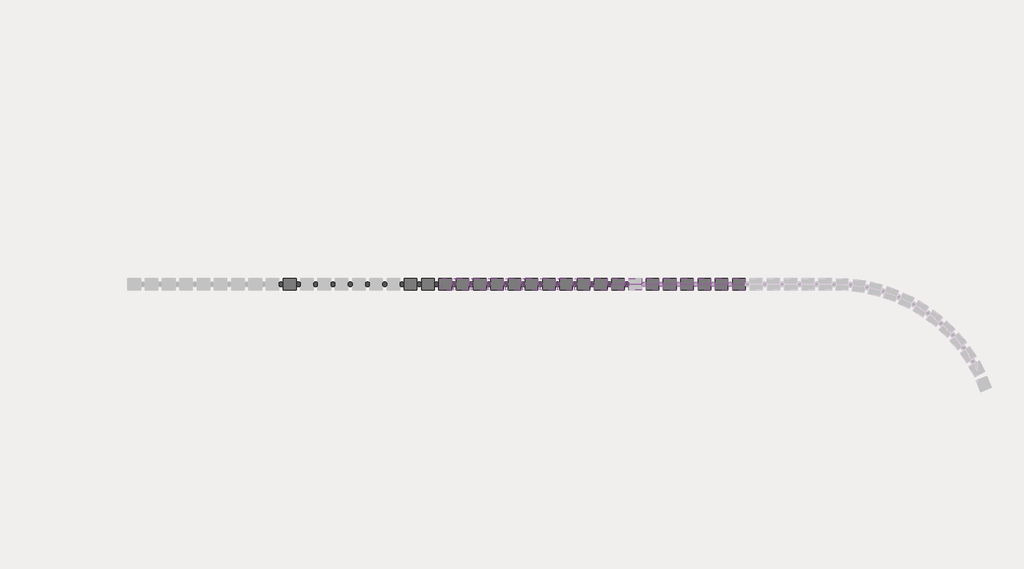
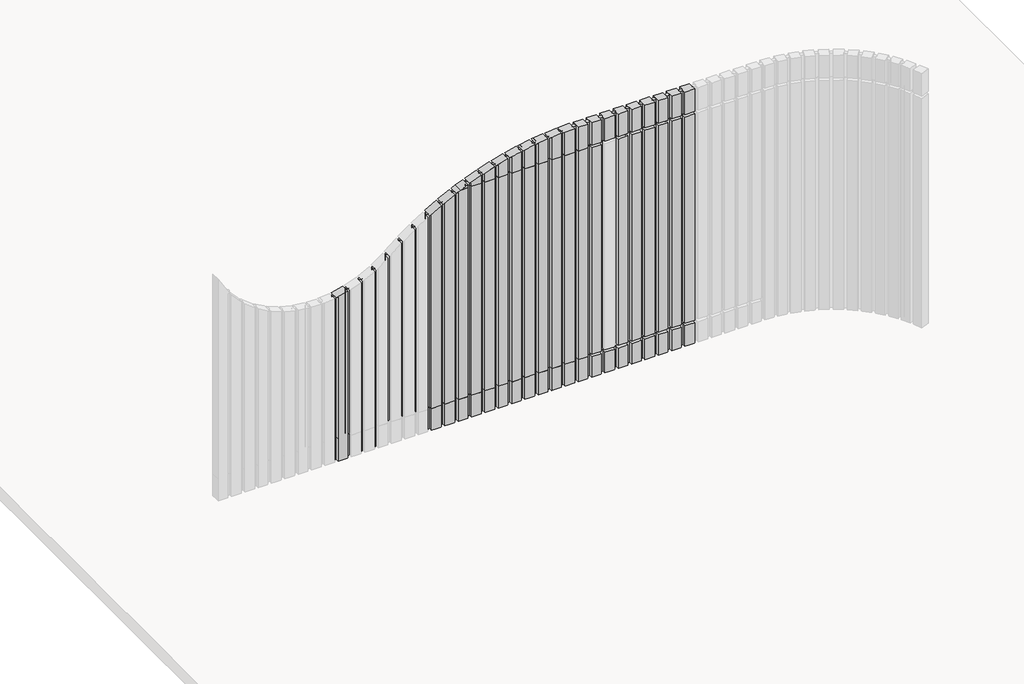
# One storey, part 10 of 15: 71 members, 58 plates.
"""IFC4 building model written with IfcOpenShell, lengths in millimetres."""

from ifc_helpers import new_model, si_unit, origin, place, context, project, spatial, transform, mapped, element, save
from components import circular_mullion_9bc5a1a1, circular_mullion_f2f76ee6, circular_mullion_506f78ad, circular_mullion_5e6bc60d, circular_mullion_93f1a2a4, circular_mullion_19b831f5, circular_mullion_9126d0c8, circular_mullion_5a352fbb, circular_mullion_0b7657d8, circular_mullion_8881820c, circular_mullion_437031f2, circular_mullion_af346b7b, circular_mullion_17b90b03, circular_mullion_a9f31288, circular_mullion_f07e19ea, circular_mullion_ab420463, circular_mullion_72bdbbff, circular_mullion_6de284a6, circular_mullion_6065364c, circular_mullion_4cdccc34, circular_mullion_45f145e4, circular_mullion_dfc24bf5, rectangular_mullion_8aaab3e9, empty_system_panel_vazio_14d0cb9b, empty_system_panel_vazio_54c19a60, empty_system_panel_vazio_91d6d3db, empty_system_panel_vazio_0cc84862, empty_system_panel_vazio_8ffa4d17, empty_system_panel_vazio_7f4cb676, empty_system_panel_vazio_4967844e, empty_system_panel_vazio_71582079, empty_system_panel_vazio_b9b9ac80, empty_system_panel_vazio_8d1e7e2e, empty_system_panel_vazio_7f57b70a, empty_system_panel_vazio_f328f28e, empty_system_panel_vazio_56ca9cd7, empty_system_panel_vazio_61c9f610, empty_system_panel_vazio_f27795c1, empty_system_panel_vazio_95a1346f, empty_system_panel_vazio_5e425309, empty_system_panel_vazio_a8f05f23, empty_system_panel_vazio_9a40c585

model = new_model("IFC4")

# Units and contexts
model_context = context("Model", 3, world=origin())
ifc_project = project(units=[si_unit("LENGTHUNIT", "METRE", prefix="MILLI")], contexts=[model_context])

# Site, building, storey
site = spatial("IfcSite", under=ifc_project)
building = spatial("IfcBuilding", under=site)
storey = spatial("IfcBuildingStorey", under=building, Name="TÉRREO", Elevation=0.0)

# Members
placement = place(None, origin())
circular_mullion_shape = circular_mullion_9bc5a1a1(model_context)
element("IfcMember", 1, ObjectType="Circular Mullion : GRADIL 40mm", at=placement, inside=storey, context=model_context, shape_type="MappedRepresentation", body=[
    mapped(circular_mullion_shape, transform((44886.2381834, 8426.4806607, 0.0), x_axis=(-1.0, 0.0, 0.0), y_axis=(0.0, 1.0, 0.0), z_axis=(0.0, 0.0, -1.0))),
])
element("IfcMember", 2, ObjectType="Circular Mullion : GRADIL 40mm", at=placement, inside=storey, context=model_context, shape_type="MappedRepresentation", body=[
    mapped(circular_mullion_shape, transform((44737.4576956, 8426.4806607, 0.0), x_axis=(-1.0, 0.0, 0.0), y_axis=(0.0, 1.0, 0.0), z_axis=(0.0, 0.0, -1.0))),
])
element("IfcMember", 3, ObjectType="Circular Mullion : GRADIL 40mm", at=placement, inside=storey, context=model_context, shape_type="MappedRepresentation", body=[
    mapped(circular_mullion_shape, transform((44588.6772078, 8426.4806607, 0.0), x_axis=(-1.0, 0.0, 0.0), y_axis=(0.0, 1.0, 0.0), z_axis=(0.0, 0.0, -1.0))),
])
element("IfcMember", 4, ObjectType="Circular Mullion : GRADIL 40mm", at=placement, inside=storey, context=model_context, shape_type="MappedRepresentation", body=[
    mapped(circular_mullion_shape, transform((44439.89672, 8426.4806607, 0.0), x_axis=(-1.0, 0.0, 0.0), y_axis=(0.0, 1.0, 0.0), z_axis=(0.0, 0.0, -1.0))),
])
element("IfcMember", 5, ObjectType="Circular Mullion : GRADIL 40mm", at=placement, inside=storey, context=model_context, shape_type="MappedRepresentation", body=[
    mapped(circular_mullion_shape, transform((44291.1162322, 8426.4806607, 0.0), x_axis=(-1.0, 0.0, 0.0), y_axis=(0.0, 1.0, 0.0), z_axis=(0.0, 0.0, -1.0))),
])
element("IfcMember", 6, ObjectType="Circular Mullion : GRADIL 40mm", at=placement, inside=storey, context=model_context, shape_type="MappedRepresentation", body=[
    mapped(circular_mullion_shape, transform((44142.3357444, 8426.4806607, 0.0), x_axis=(-1.0, 0.0, 0.0), y_axis=(0.0, 1.0, 0.0), z_axis=(0.0, 0.0, -1.0))),
])
element("IfcMember", 7, ObjectType="Circular Mullion : GRADIL 40mm", at=placement, inside=storey, context=model_context, shape_type="MappedRepresentation", body=[
    mapped(circular_mullion_shape, transform((43993.5552566, 8426.4806607, 0.0), x_axis=(-1.0, 0.0, 0.0), y_axis=(0.0, 1.0, 0.0), z_axis=(0.0, 0.0, -1.0))),
])
element("IfcMember", 8, ObjectType="Circular Mullion : GRADIL 40mm", at=placement, inside=storey, context=model_context, shape_type="MappedRepresentation", body=[
    mapped(circular_mullion_shape, transform((43844.7747688, 8426.4806607, 0.0), x_axis=(-1.0, 0.0, 0.0), y_axis=(0.0, 1.0, 0.0), z_axis=(0.0, 0.0, -1.0))),
])
element("IfcMember", 9, ObjectType="Circular Mullion : GRADIL 40mm", at=placement, inside=storey, context=model_context, shape_type="MappedRepresentation", body=[
    mapped(circular_mullion_shape, transform((43695.994281, 8426.4806607, 0.0), x_axis=(-1.0, 0.0, 0.0), y_axis=(0.0, 1.0, 0.0), z_axis=(0.0, 0.0, -1.0))),
])
element("IfcMember", 10, ObjectType="Circular Mullion : GRADIL 40mm", at=placement, inside=storey, context=model_context, shape_type="MappedRepresentation", body=[
    mapped(circular_mullion_shape, transform((43547.2137932, 8426.4806607, 0.0), x_axis=(-1.0, 0.0, 0.0), y_axis=(0.0, 1.0, 0.0), z_axis=(0.0, 0.0, -1.0))),
])
element("IfcMember", 11, ObjectType="Circular Mullion : GRADIL 40mm", at=placement, inside=storey, context=model_context, shape_type="MappedRepresentation", body=[
    mapped(circular_mullion_shape, transform((43398.4333054, 8426.4806607, 0.0), x_axis=(-1.0, 0.0, 0.0), y_axis=(0.0, 1.0, 0.0), z_axis=(0.0, 0.0, -1.0))),
])
element("IfcMember", 12, ObjectType="Circular Mullion : GRADIL 40mm", at=placement, inside=storey, context=model_context, shape_type="MappedRepresentation", body=[
    mapped(circular_mullion_shape, transform((43249.6528176, 8426.4806607, 0.0), x_axis=(-1.0, 0.0, 0.0), y_axis=(0.0, 1.0, 0.0), z_axis=(0.0, 0.0, -1.0))),
])
element("IfcMember", 13, ObjectType="Circular Mullion : GRADIL 40mm", at=placement, inside=storey, context=model_context, shape_type="MappedRepresentation", body=[
    mapped(circular_mullion_shape, transform((43100.8723298, 8426.4806607, 0.0), x_axis=(-1.0, 0.0, 0.0), y_axis=(0.0, 1.0, 0.0), z_axis=(0.0, 0.0, -1.0))),
])
element("IfcMember", 14, ObjectType="Circular Mullion : GRADIL 40mm", at=placement, inside=storey, context=model_context, shape_type="MappedRepresentation", body=[
    mapped(circular_mullion_shape, transform((42952.0918419, 8426.4806607, 0.0), x_axis=(-1.0, 0.0, 0.0), y_axis=(0.0, 1.0, 0.0), z_axis=(0.0, 0.0, -1.0))),
])
element("IfcMember", 15, ObjectType="Circular Mullion : GRADIL 40mm", at=placement, inside=storey, context=model_context, shape_type="MappedRepresentation", body=[
    mapped(circular_mullion_shape, transform((42803.3113541, 8426.4806607, 0.0), x_axis=(-1.0, 0.0, 0.0), y_axis=(0.0, 1.0, 0.0), z_axis=(0.0, 0.0, -1.0))),
])
element("IfcMember", 16, ObjectType="Circular Mullion : GRADIL 40mm", at=placement, inside=storey, context=model_context, shape_type="MappedRepresentation", body=[
    mapped(circular_mullion_shape, transform((42654.5308663, 8426.4806607, 0.0), x_axis=(-1.0, 0.0, 0.0), y_axis=(0.0, 1.0, 0.0), z_axis=(0.0, 0.0, -1.0))),
])
element("IfcMember", 17, ObjectType="Circular Mullion : GRADIL 40mm", at=placement, inside=storey, context=model_context, shape_type="MappedRepresentation", body=[
    mapped(circular_mullion_shape, transform((42356.9698907, 8426.4806607, 0.0), x_axis=(-1.0, 0.0, 0.0), y_axis=(0.0, 1.0, 0.0), z_axis=(0.0, 0.0, -1.0))),
])
element("IfcMember", 18, ObjectType="Circular Mullion : GRADIL 40mm", at=placement, inside=storey, context=model_context, shape_type="MappedRepresentation", body=[
    mapped(circular_mullion_shape, transform((42208.1894029, 8426.4806607, 0.0), x_axis=(-1.0, 0.0, 0.0), y_axis=(0.0, 1.0, 0.0), z_axis=(0.0, 0.0, -1.0))),
])
element("IfcMember", 19, ObjectType="Circular Mullion : GRADIL 40mm", at=placement, inside=storey, context=model_context, shape_type="MappedRepresentation", body=[
    mapped(circular_mullion_shape, transform((41464.2869639, 8426.4806607, 0.0), x_axis=(-1.0, 0.0, 0.0), y_axis=(0.0, 1.0, 0.0), z_axis=(0.0, 0.0, -1.0))),
])
element("IfcMember", 20, ObjectType="Circular Mullion : GRADIL 40mm", at=placement, inside=storey, context=model_context, shape_type="MappedRepresentation", body=[
    mapped(circular_mullion_shape, transform((41315.5064761, 8426.4806607, 0.0), x_axis=(-1.0, 0.0, 0.0), y_axis=(0.0, 1.0, 0.0), z_axis=(0.0, 0.0, -1.0))),
])
element("IfcMember", 21, ObjectType="Circular Mullion : GRADIL 40mm", at=placement, inside=storey, context=model_context, shape_type="MappedRepresentation", body=[
    mapped(circular_mullion_shape, transform((42059.4089151, 8426.4806607, 0.0), x_axis=(-1.0, 0.0, 0.0), y_axis=(0.0, 1.0, 0.0), z_axis=(0.0, 0.0, -1.0))),
])
element("IfcMember", 22, ObjectType="Circular Mullion : GRADIL 40mm", at=placement, inside=storey, context=model_context, shape_type="MappedRepresentation", body=[
    mapped(circular_mullion_shape, transform((42505.7503785, 8426.4806607, 0.0), x_axis=(-1.0, 0.0, 0.0), y_axis=(0.0, 1.0, 0.0), z_axis=(0.0, 0.0, -1.0))),
])
element("IfcMember", 23, ObjectType="Circular Mullion : GRADIL 40mm", at=placement, inside=storey, context=model_context, shape_type="MappedRepresentation", body=[
    mapped(circular_mullion_shape, transform((41166.7259883, 8426.4806607, 0.0), x_axis=(-1.0, 0.0, 0.0), y_axis=(0.0, 1.0, 0.0), z_axis=(0.0, 0.0, -1.0))),
])
element("IfcMember", 24, ObjectType="Circular Mullion : GRADIL 40mm", at=placement, inside=storey, context=model_context, shape_type="MappedRepresentation", body=[
    mapped(circular_mullion_shape, transform((41017.9455005, 8426.4806607, 0.0), x_axis=(-1.0, 0.0, 0.0), y_axis=(0.0, 1.0, 0.0), z_axis=(0.0, 0.0, -1.0))),
])
circular_mullion_2_shape = circular_mullion_f2f76ee6(model_context)
element("IfcMember", 25, ObjectType="Circular Mullion : GRADIL 40mm", at=placement, inside=storey, context=model_context, shape_type="MappedRepresentation", body=[
    mapped(circular_mullion_2_shape, transform((44886.2381834, 8426.4806607, 2720.0), x_axis=(-1.0, 0.0, 0.0), y_axis=(0.0, 1.0, 0.0), z_axis=(0.0, 0.0, -1.0))),
])
element("IfcMember", 26, ObjectType="Circular Mullion : GRADIL 40mm", at=placement, inside=storey, context=model_context, shape_type="MappedRepresentation", body=[
    mapped(circular_mullion_2_shape, transform((44737.4576956, 8426.4806607, 2720.0), x_axis=(-1.0, 0.0, 0.0), y_axis=(0.0, 1.0, 0.0), z_axis=(0.0, 0.0, -1.0))),
])
element("IfcMember", 27, ObjectType="Circular Mullion : GRADIL 40mm", at=placement, inside=storey, context=model_context, shape_type="MappedRepresentation", body=[
    mapped(circular_mullion_2_shape, transform((44588.6772078, 8426.4806607, 2720.0), x_axis=(-1.0, 0.0, 0.0), y_axis=(0.0, 1.0, 0.0), z_axis=(0.0, 0.0, -1.0))),
])
element("IfcMember", 28, ObjectType="Circular Mullion : GRADIL 40mm", at=placement, inside=storey, context=model_context, shape_type="MappedRepresentation", body=[
    mapped(circular_mullion_2_shape, transform((44439.89672, 8426.4806607, 2720.0), x_axis=(-1.0, 0.0, 0.0), y_axis=(0.0, 1.0, 0.0), z_axis=(0.0, 0.0, -1.0))),
])
element("IfcMember", 29, ObjectType="Circular Mullion : GRADIL 40mm", at=placement, inside=storey, context=model_context, shape_type="MappedRepresentation", body=[
    mapped(circular_mullion_2_shape, transform((44291.1162322, 8426.4806607, 2720.0), x_axis=(-1.0, 0.0, 0.0), y_axis=(0.0, 1.0, 0.0), z_axis=(0.0, 0.0, -1.0))),
])
element("IfcMember", 30, ObjectType="Circular Mullion : GRADIL 40mm", at=placement, inside=storey, context=model_context, shape_type="MappedRepresentation", body=[
    mapped(circular_mullion_2_shape, transform((44142.3357444, 8426.4806607, 2720.0), x_axis=(-1.0, 0.0, 0.0), y_axis=(0.0, 1.0, 0.0), z_axis=(0.0, 0.0, -1.0))),
])
element("IfcMember", 31, ObjectType="Circular Mullion : GRADIL 40mm", at=placement, inside=storey, context=model_context, shape_type="MappedRepresentation", body=[
    mapped(circular_mullion_2_shape, transform((43993.5552566, 8426.4806607, 2720.0), x_axis=(-1.0, 0.0, 0.0), y_axis=(0.0, 1.0, 0.0), z_axis=(0.0, 0.0, -1.0))),
])
element("IfcMember", 32, ObjectType="Circular Mullion : GRADIL 40mm", at=placement, inside=storey, context=model_context, shape_type="MappedRepresentation", body=[
    mapped(circular_mullion_2_shape, transform((43844.7747688, 8426.4806607, 2720.0), x_axis=(-1.0, 0.0, 0.0), y_axis=(0.0, 1.0, 0.0), z_axis=(0.0, 0.0, -1.0))),
])
circular_mullion_3_shape = circular_mullion_506f78ad(model_context)
element("IfcMember", 33, ObjectType="Circular Mullion : GRADIL 40mm", at=placement, inside=storey, context=model_context, shape_type="MappedRepresentation", body=[
    mapped(circular_mullion_3_shape, transform((43695.994281, 8426.4806607, 2720.0), x_axis=(-1.0, 0.0, 0.0), y_axis=(0.0, 1.0, 0.0), z_axis=(0.0, 0.0, -1.0))),
])
circular_mullion_4_shape = circular_mullion_5e6bc60d(model_context)
element("IfcMember", 34, ObjectType="Circular Mullion : GRADIL 40mm", at=placement, inside=storey, context=model_context, shape_type="MappedRepresentation", body=[
    mapped(circular_mullion_4_shape, transform((43547.2137932, 8426.4806607, 2720.0), x_axis=(-1.0, 0.0, 0.0), y_axis=(0.0, 1.0, 0.0), z_axis=(0.0, 0.0, -1.0))),
])
circular_mullion_5_shape = circular_mullion_93f1a2a4(model_context)
element("IfcMember", 35, ObjectType="Circular Mullion : GRADIL 40mm", at=placement, inside=storey, context=model_context, shape_type="MappedRepresentation", body=[
    mapped(circular_mullion_5_shape, transform((43398.4333054, 8426.4806607, 2720.0), x_axis=(-1.0, 0.0, 0.0), y_axis=(0.0, 1.0, 0.0), z_axis=(0.0, 0.0, -1.0))),
])
circular_mullion_6_shape = circular_mullion_19b831f5(model_context)
element("IfcMember", 36, ObjectType="Circular Mullion : GRADIL 40mm", at=placement, inside=storey, context=model_context, shape_type="MappedRepresentation", body=[
    mapped(circular_mullion_6_shape, transform((43249.6528176, 8426.4806607, 2720.0), x_axis=(-1.0, 0.0, 0.0), y_axis=(0.0, 1.0, 0.0), z_axis=(0.0, 0.0, -1.0))),
])
circular_mullion_7_shape = circular_mullion_9126d0c8(model_context)
element("IfcMember", 37, ObjectType="Circular Mullion : GRADIL 40mm", at=placement, inside=storey, context=model_context, shape_type="MappedRepresentation", body=[
    mapped(circular_mullion_7_shape, transform((43100.8723298, 8426.4806607, 2720.0), x_axis=(-1.0, 0.0, 0.0), y_axis=(0.0, 1.0, 0.0), z_axis=(0.0, 0.0, -1.0))),
])
circular_mullion_8_shape = circular_mullion_5a352fbb(model_context)
element("IfcMember", 38, ObjectType="Circular Mullion : GRADIL 40mm", at=placement, inside=storey, context=model_context, shape_type="MappedRepresentation", body=[
    mapped(circular_mullion_8_shape, transform((42952.0918419, 8426.4806607, 2720.0), x_axis=(-1.0, 0.0, 0.0), y_axis=(0.0, 1.0, 0.0), z_axis=(0.0, 0.0, -1.0))),
])
circular_mullion_9_shape = circular_mullion_0b7657d8(model_context)
element("IfcMember", 39, ObjectType="Circular Mullion : GRADIL 40mm", at=placement, inside=storey, context=model_context, shape_type="MappedRepresentation", body=[
    mapped(circular_mullion_9_shape, transform((42803.3113541, 8426.4806607, 2720.0), x_axis=(-1.0, 0.0, 0.0), y_axis=(0.0, 1.0, 0.0), z_axis=(0.0, 0.0, -1.0))),
])
circular_mullion_10_shape = circular_mullion_8881820c(model_context)
element("IfcMember", 40, ObjectType="Circular Mullion : GRADIL 40mm", at=placement, inside=storey, context=model_context, shape_type="MappedRepresentation", body=[
    mapped(circular_mullion_10_shape, transform((42654.5308663, 8426.4806607, 2720.0), x_axis=(-1.0, 0.0, 0.0), y_axis=(0.0, 1.0, 0.0), z_axis=(0.0, 0.0, -1.0))),
])
circular_mullion_11_shape = circular_mullion_437031f2(model_context)
element("IfcMember", 41, ObjectType="Circular Mullion : GRADIL 40mm", at=placement, inside=storey, context=model_context, shape_type="MappedRepresentation", body=[
    mapped(circular_mullion_11_shape, transform((42505.7503785, 8426.4806607, 2720.0), x_axis=(-1.0, 0.0, 0.0), y_axis=(0.0, 1.0, 0.0), z_axis=(0.0, 0.0, -1.0))),
])
circular_mullion_12_shape = circular_mullion_af346b7b(model_context)
element("IfcMember", 42, ObjectType="Circular Mullion : GRADIL 40mm", at=placement, inside=storey, context=model_context, shape_type="MappedRepresentation", body=[
    mapped(circular_mullion_12_shape, transform((43993.5552566, 8426.4806607, 256.7936467), x_axis=(-1.0, 0.0, 0.0), y_axis=(0.0, 1.0, 0.0), z_axis=(0.0, 0.0, -1.0))),
])
element("IfcMember", 43, ObjectType="Circular Mullion : GRADIL 40mm", at=placement, inside=storey, context=model_context, shape_type="MappedRepresentation", body=[
    mapped(circular_mullion_12_shape, transform((43844.7747688, 8426.4806607, 256.7936467), x_axis=(-1.0, 0.0, 0.0), y_axis=(0.0, 1.0, 0.0), z_axis=(0.0, 0.0, -1.0))),
])
element("IfcMember", 44, ObjectType="Circular Mullion : GRADIL 40mm", at=placement, inside=storey, context=model_context, shape_type="MappedRepresentation", body=[
    mapped(circular_mullion_12_shape, transform((43695.994281, 8426.4806607, 256.7936467), x_axis=(-1.0, 0.0, 0.0), y_axis=(0.0, 1.0, 0.0), z_axis=(0.0, 0.0, -1.0))),
])
element("IfcMember", 45, ObjectType="Circular Mullion : GRADIL 40mm", at=placement, inside=storey, context=model_context, shape_type="MappedRepresentation", body=[
    mapped(circular_mullion_12_shape, transform((43547.2137932, 8426.4806607, 256.7936467), x_axis=(-1.0, 0.0, 0.0), y_axis=(0.0, 1.0, 0.0), z_axis=(0.0, 0.0, -1.0))),
])
element("IfcMember", 46, ObjectType="Circular Mullion : GRADIL 40mm", at=placement, inside=storey, context=model_context, shape_type="MappedRepresentation", body=[
    mapped(circular_mullion_12_shape, transform((43398.4333054, 8426.4806607, 256.7936467), x_axis=(-1.0, 0.0, 0.0), y_axis=(0.0, 1.0, 0.0), z_axis=(0.0, 0.0, -1.0))),
])
element("IfcMember", 47, ObjectType="Circular Mullion : GRADIL 40mm", at=placement, inside=storey, context=model_context, shape_type="MappedRepresentation", body=[
    mapped(circular_mullion_12_shape, transform((43249.6528176, 8426.4806607, 256.7936467), x_axis=(-1.0, 0.0, 0.0), y_axis=(0.0, 1.0, 0.0), z_axis=(0.0, 0.0, -1.0))),
])
element("IfcMember", 48, ObjectType="Circular Mullion : GRADIL 40mm", at=placement, inside=storey, context=model_context, shape_type="MappedRepresentation", body=[
    mapped(circular_mullion_12_shape, transform((43100.8723298, 8426.4806607, 256.7936467), x_axis=(-1.0, 0.0, 0.0), y_axis=(0.0, 1.0, 0.0), z_axis=(0.0, 0.0, -1.0))),
])
element("IfcMember", 49, ObjectType="Circular Mullion : GRADIL 40mm", at=placement, inside=storey, context=model_context, shape_type="MappedRepresentation", body=[
    mapped(circular_mullion_12_shape, transform((42952.0918419, 8426.4806607, 256.7936467), x_axis=(-1.0, 0.0, 0.0), y_axis=(0.0, 1.0, 0.0), z_axis=(0.0, 0.0, -1.0))),
])
element("IfcMember", 50, ObjectType="Circular Mullion : GRADIL 40mm", at=placement, inside=storey, context=model_context, shape_type="MappedRepresentation", body=[
    mapped(circular_mullion_12_shape, transform((42803.3113541, 8426.4806607, 256.7936467), x_axis=(-1.0, 0.0, 0.0), y_axis=(0.0, 1.0, 0.0), z_axis=(0.0, 0.0, -1.0))),
])
element("IfcMember", 51, ObjectType="Circular Mullion : GRADIL 40mm", at=placement, inside=storey, context=model_context, shape_type="MappedRepresentation", body=[
    mapped(circular_mullion_12_shape, transform((42654.5308663, 8426.4806607, 256.7936467), x_axis=(-1.0, 0.0, 0.0), y_axis=(0.0, 1.0, 0.0), z_axis=(0.0, 0.0, -1.0))),
])
element("IfcMember", 52, ObjectType="Circular Mullion : GRADIL 40mm", at=placement, inside=storey, context=model_context, shape_type="MappedRepresentation", body=[
    mapped(circular_mullion_12_shape, transform((42505.7503785, 8426.4806607, 256.7936467), x_axis=(-1.0, 0.0, 0.0), y_axis=(0.0, 1.0, 0.0), z_axis=(0.0, 0.0, -1.0))),
])
circular_mullion_13_shape = circular_mullion_17b90b03(model_context)
element("IfcMember", 53, ObjectType="Circular Mullion : GRADIL 40mm", at=placement, inside=storey, context=model_context, shape_type="MappedRepresentation", body=[
    mapped(circular_mullion_13_shape, transform((42356.9698907, 8426.4806607, 256.7936467), x_axis=(-1.0, 0.0, 0.0), y_axis=(0.0, 1.0, 0.0), z_axis=(0.0, 0.0, -1.0))),
])
circular_mullion_14_shape = circular_mullion_a9f31288(model_context)
element("IfcMember", 54, ObjectType="Circular Mullion : GRADIL 40mm", at=placement, inside=storey, context=model_context, shape_type="MappedRepresentation", body=[
    mapped(circular_mullion_14_shape, transform((42208.1894029, 8426.4806607, 256.7936467), x_axis=(-1.0, 0.0, 0.0), y_axis=(0.0, 1.0, 0.0), z_axis=(0.0, 0.0, -1.0))),
])
circular_mullion_15_shape = circular_mullion_f07e19ea(model_context)
element("IfcMember", 55, ObjectType="Circular Mullion : GRADIL 40mm", at=placement, inside=storey, context=model_context, shape_type="MappedRepresentation", body=[
    mapped(circular_mullion_15_shape, transform((42059.4089151, 8426.4806607, 256.7936467), x_axis=(-1.0, 0.0, 0.0), y_axis=(0.0, 1.0, 0.0), z_axis=(0.0, 0.0, -1.0))),
])
circular_mullion_16_shape = circular_mullion_ab420463(model_context)
element("IfcMember", 56, ObjectType="Circular Mullion : GRADIL 40mm", at=placement, inside=storey, context=model_context, shape_type="MappedRepresentation", body=[
    mapped(circular_mullion_16_shape, transform((41910.6284273, 8426.4806607, 256.7936467), x_axis=(-1.0, 0.0, 0.0), y_axis=(0.0, 1.0, 0.0), z_axis=(0.0, 0.0, -1.0))),
])
circular_mullion_17_shape = circular_mullion_72bdbbff(model_context)
element("IfcMember", 57, ObjectType="Circular Mullion : GRADIL 40mm", at=placement, inside=storey, context=model_context, shape_type="MappedRepresentation", body=[
    mapped(circular_mullion_17_shape, transform((41761.8479395, 8426.4806607, 256.7936467), x_axis=(-1.0, 0.0, 0.0), y_axis=(0.0, 1.0, 0.0), z_axis=(0.0, 0.0, -1.0))),
])
circular_mullion_18_shape = circular_mullion_6de284a6(model_context)
element("IfcMember", 58, ObjectType="Circular Mullion : GRADIL 40mm", at=placement, inside=storey, context=model_context, shape_type="MappedRepresentation", body=[
    mapped(circular_mullion_18_shape, transform((41613.0674517, 8426.4806607, 256.7936467), x_axis=(-1.0, 0.0, 0.0), y_axis=(0.0, 1.0, 0.0), z_axis=(0.0, 0.0, -1.0))),
])
circular_mullion_19_shape = circular_mullion_6065364c(model_context)
element("IfcMember", 59, ObjectType="Circular Mullion : GRADIL 40mm", at=placement, inside=storey, context=model_context, shape_type="MappedRepresentation", body=[
    mapped(circular_mullion_19_shape, transform((41464.2869639, 8426.4806607, 256.7936467), x_axis=(-1.0, 0.0, 0.0), y_axis=(0.0, 1.0, 0.0), z_axis=(0.0, 0.0, -1.0))),
])
circular_mullion_20_shape = circular_mullion_4cdccc34(model_context)
element("IfcMember", 60, ObjectType="Circular Mullion : GRADIL 40mm", at=placement, inside=storey, context=model_context, shape_type="MappedRepresentation", body=[
    mapped(circular_mullion_20_shape, transform((41315.5064761, 8426.4806607, 256.7936467), x_axis=(-1.0, 0.0, 0.0), y_axis=(0.0, 1.0, 0.0), z_axis=(0.0, 0.0, -1.0))),
])
circular_mullion_21_shape = circular_mullion_45f145e4(model_context)
element("IfcMember", 61, ObjectType="Circular Mullion : GRADIL 40mm", at=placement, inside=storey, context=model_context, shape_type="MappedRepresentation", body=[
    mapped(circular_mullion_21_shape, transform((41166.7259883, 8426.4806607, 256.7936467), x_axis=(-1.0, 0.0, 0.0), y_axis=(0.0, 1.0, 0.0), z_axis=(0.0, 0.0, -1.0))),
])
circular_mullion_22_shape = circular_mullion_dfc24bf5(model_context)
element("IfcMember", 62, ObjectType="Circular Mullion : GRADIL 40mm", at=placement, inside=storey, context=model_context, shape_type="MappedRepresentation", body=[
    mapped(circular_mullion_22_shape, transform((41017.9455005, 8426.4806607, 256.7936467), x_axis=(-1.0, 0.0, 0.0), y_axis=(0.0, 1.0, 0.0), z_axis=(0.0, 0.0, -1.0))),
])
rectangular_mullion_shape = rectangular_mullion_8aaab3e9(model_context)
element("IfcMember", 63, ObjectType="Rectangular Mullion : MT HRZ GRADIL 01", at=placement, inside=storey, context=model_context, shape_type="MappedRepresentation", body=[
    mapped(rectangular_mullion_shape, transform((44906.2381834, 8426.4806607, 2720.0), x_axis=(0.0, 0.0, 1.0), y_axis=(0.0, 1.0, 0.0), z_axis=(-1.0, 0.0, 0.0))),
])
element("IfcMember", 64, ObjectType="Rectangular Mullion : MT HRZ GRADIL 01", at=placement, inside=storey, context=model_context, shape_type="MappedRepresentation", body=[
    mapped(rectangular_mullion_shape, transform((44757.4576956, 8426.4806607, 2720.0), x_axis=(0.0, 0.0, 1.0), y_axis=(0.0, 1.0, 0.0), z_axis=(-1.0, 0.0, 0.0))),
])
element("IfcMember", 65, ObjectType="Rectangular Mullion : MT HRZ GRADIL 01", at=placement, inside=storey, context=model_context, shape_type="MappedRepresentation", body=[
    mapped(rectangular_mullion_shape, transform((44608.6772078, 8426.4806607, 2720.0), x_axis=(0.0, 0.0, 1.0), y_axis=(0.0, 1.0, 0.0), z_axis=(-1.0, 0.0, 0.0))),
])
element("IfcMember", 66, ObjectType="Rectangular Mullion : MT HRZ GRADIL 01", at=placement, inside=storey, context=model_context, shape_type="MappedRepresentation", body=[
    mapped(rectangular_mullion_shape, transform((44459.89672, 8426.4806607, 2720.0), x_axis=(0.0, 0.0, 1.0), y_axis=(0.0, 1.0, 0.0), z_axis=(-1.0, 0.0, 0.0))),
])
element("IfcMember", 67, ObjectType="Rectangular Mullion : MT HRZ GRADIL 01", at=placement, inside=storey, context=model_context, shape_type="MappedRepresentation", body=[
    mapped(rectangular_mullion_shape, transform((44311.1162322, 8426.4806607, 2720.0), x_axis=(0.0, 0.0, 1.0), y_axis=(0.0, 1.0, 0.0), z_axis=(-1.0, 0.0, 0.0))),
])
element("IfcMember", 68, ObjectType="Rectangular Mullion : MT HRZ GRADIL 01", at=placement, inside=storey, context=model_context, shape_type="MappedRepresentation", body=[
    mapped(rectangular_mullion_shape, transform((44162.3357444, 8426.4806607, 2720.0), x_axis=(0.0, 0.0, 1.0), y_axis=(0.0, 1.0, 0.0), z_axis=(-1.0, 0.0, 0.0))),
])
element("IfcMember", 69, ObjectType="Rectangular Mullion : MT HRZ GRADIL 01", at=placement, inside=storey, context=model_context, shape_type="MappedRepresentation", body=[
    mapped(rectangular_mullion_shape, transform((44013.5552566, 8426.4806607, 2720.0), x_axis=(0.0, 0.0, 1.0), y_axis=(0.0, 1.0, 0.0), z_axis=(-1.0, 0.0, 0.0))),
])
element("IfcMember", 70, ObjectType="Rectangular Mullion : MT HRZ GRADIL 01", at=placement, inside=storey, context=model_context, shape_type="MappedRepresentation", body=[
    mapped(rectangular_mullion_shape, transform((43864.7747688, 8426.4806607, 2720.0), x_axis=(0.0, 0.0, 1.0), y_axis=(0.0, 1.0, 0.0), z_axis=(-1.0, 0.0, 0.0))),
])
element("IfcMember", 71, ObjectType="Rectangular Mullion : MT HRZ GRADIL 01", at=placement, inside=storey, context=model_context, shape_type="MappedRepresentation", body=[
    mapped(rectangular_mullion_shape, transform((43864.7747688, 8426.4806607, 256.7936467), x_axis=(0.0, 0.0, 1.0), y_axis=(0.0, 1.0, 0.0), z_axis=(-1.0, 0.0, 0.0))),
])

# Plates
empty_system_panel_vazio_shape = empty_system_panel_vazio_14d0cb9b(model_context)
element("IfcPlate", 72, ObjectType="Empty System Panel : VAZIO", at=placement, inside=storey, context=model_context, shape_type="MappedRepresentation", body=[
    mapped(empty_system_panel_vazio_shape, transform((44960.6284273, 8426.4806607, 0.0), x_axis=(-1.0, 0.0, 0.0), y_axis=(0.0, -1.0, 0.0), z_axis=(0.0, 0.0, 1.0))),
])
element("IfcPlate", 73, ObjectType="Empty System Panel : VAZIO", at=placement, inside=storey, context=model_context, shape_type="MappedRepresentation", body=[
    mapped(empty_system_panel_vazio_shape, transform((44811.8479395, 8426.4806607, 0.0), x_axis=(-1.0, 0.0, 0.0), y_axis=(0.0, -1.0, 0.0), z_axis=(0.0, 0.0, 1.0))),
])
element("IfcPlate", 74, ObjectType="Empty System Panel : VAZIO", at=placement, inside=storey, context=model_context, shape_type="MappedRepresentation", body=[
    mapped(empty_system_panel_vazio_shape, transform((44663.0674517, 8426.4806607, 0.0), x_axis=(-1.0, 0.0, 0.0), y_axis=(0.0, -1.0, 0.0), z_axis=(0.0, 0.0, 1.0))),
])
element("IfcPlate", 75, ObjectType="Empty System Panel : VAZIO", at=placement, inside=storey, context=model_context, shape_type="MappedRepresentation", body=[
    mapped(empty_system_panel_vazio_shape, transform((44514.2869639, 8426.4806607, 0.0), x_axis=(-1.0, 0.0, 0.0), y_axis=(0.0, -1.0, 0.0), z_axis=(0.0, 0.0, 1.0))),
])
element("IfcPlate", 76, ObjectType="Empty System Panel : VAZIO", at=placement, inside=storey, context=model_context, shape_type="MappedRepresentation", body=[
    mapped(empty_system_panel_vazio_shape, transform((44365.5064761, 8426.4806607, 0.0), x_axis=(-1.0, 0.0, 0.0), y_axis=(0.0, -1.0, 0.0), z_axis=(0.0, 0.0, 1.0))),
])
element("IfcPlate", 77, ObjectType="Empty System Panel : VAZIO", at=placement, inside=storey, context=model_context, shape_type="MappedRepresentation", body=[
    mapped(empty_system_panel_vazio_shape, transform((44216.7259883, 8426.4806607, 0.0), x_axis=(-1.0, 0.0, 0.0), y_axis=(0.0, -1.0, 0.0), z_axis=(0.0, 0.0, 1.0))),
])
element("IfcPlate", 78, ObjectType="Empty System Panel : VAZIO", at=placement, inside=storey, context=model_context, shape_type="MappedRepresentation", body=[
    mapped(empty_system_panel_vazio_shape, transform((44067.9455005, 8426.4806607, 0.0), x_axis=(-1.0, 0.0, 0.0), y_axis=(0.0, -1.0, 0.0), z_axis=(0.0, 0.0, 1.0))),
])
element("IfcPlate", 79, ObjectType="Empty System Panel : VAZIO", at=placement, inside=storey, context=model_context, shape_type="MappedRepresentation", body=[
    mapped(empty_system_panel_vazio_shape, transform((43919.1650127, 8426.4806607, 0.0), x_axis=(-1.0, 0.0, 0.0), y_axis=(0.0, -1.0, 0.0), z_axis=(0.0, 0.0, 1.0))),
])
empty_system_panel_vazio_2_shape = empty_system_panel_vazio_54c19a60(model_context)
element("IfcPlate", 80, ObjectType="Empty System Panel : VAZIO", at=placement, inside=storey, context=model_context, shape_type="MappedRepresentation", body=[
    mapped(empty_system_panel_vazio_2_shape, transform((43770.3845249, 8426.4806607, 0.0), x_axis=(-1.0, 0.0, 0.0), y_axis=(0.0, -1.0, 0.0), z_axis=(0.0, 0.0, 1.0))),
])
element("IfcPlate", 81, ObjectType="Empty System Panel : VAZIO", at=placement, inside=storey, context=model_context, shape_type="MappedRepresentation", body=[
    mapped(empty_system_panel_vazio_2_shape, transform((43621.6040371, 8426.4806607, 0.0), x_axis=(-1.0, 0.0, 0.0), y_axis=(0.0, -1.0, 0.0), z_axis=(0.0, 0.0, 1.0))),
])
element("IfcPlate", 82, ObjectType="Empty System Panel : VAZIO", at=placement, inside=storey, context=model_context, shape_type="MappedRepresentation", body=[
    mapped(empty_system_panel_vazio_2_shape, transform((43472.8235493, 8426.4806607, 0.0), x_axis=(-1.0, 0.0, 0.0), y_axis=(0.0, -1.0, 0.0), z_axis=(0.0, 0.0, 1.0))),
])
element("IfcPlate", 83, ObjectType="Empty System Panel : VAZIO", at=placement, inside=storey, context=model_context, shape_type="MappedRepresentation", body=[
    mapped(empty_system_panel_vazio_2_shape, transform((43324.0430615, 8426.4806607, 0.0), x_axis=(-1.0, 0.0, 0.0), y_axis=(0.0, -1.0, 0.0), z_axis=(0.0, 0.0, 1.0))),
])
element("IfcPlate", 84, ObjectType="Empty System Panel : VAZIO", at=placement, inside=storey, context=model_context, shape_type="MappedRepresentation", body=[
    mapped(empty_system_panel_vazio_2_shape, transform((43175.2625737, 8426.4806607, 0.0), x_axis=(-1.0, 0.0, 0.0), y_axis=(0.0, -1.0, 0.0), z_axis=(0.0, 0.0, 1.0))),
])
element("IfcPlate", 85, ObjectType="Empty System Panel : VAZIO", at=placement, inside=storey, context=model_context, shape_type="MappedRepresentation", body=[
    mapped(empty_system_panel_vazio_2_shape, transform((43026.4820859, 8426.4806607, 0.0), x_axis=(-1.0, 0.0, 0.0), y_axis=(0.0, -1.0, 0.0), z_axis=(0.0, 0.0, 1.0))),
])
element("IfcPlate", 86, ObjectType="Empty System Panel : VAZIO", at=placement, inside=storey, context=model_context, shape_type="MappedRepresentation", body=[
    mapped(empty_system_panel_vazio_2_shape, transform((42877.701598, 8426.4806607, 0.0), x_axis=(-1.0, 0.0, 0.0), y_axis=(0.0, -1.0, 0.0), z_axis=(0.0, 0.0, 1.0))),
])
element("IfcPlate", 87, ObjectType="Empty System Panel : VAZIO", at=placement, inside=storey, context=model_context, shape_type="MappedRepresentation", body=[
    mapped(empty_system_panel_vazio_2_shape, transform((42728.9211102, 8426.4806607, 0.0), x_axis=(-1.0, 0.0, 0.0), y_axis=(0.0, -1.0, 0.0), z_axis=(0.0, 0.0, 1.0))),
])
element("IfcPlate", 88, ObjectType="Empty System Panel : VAZIO", at=placement, inside=storey, context=model_context, shape_type="MappedRepresentation", body=[
    mapped(empty_system_panel_vazio_2_shape, transform((42580.1406224, 8426.4806607, 0.0), x_axis=(-1.0, 0.0, 0.0), y_axis=(0.0, -1.0, 0.0), z_axis=(0.0, 0.0, 1.0))),
])
element("IfcPlate", 89, ObjectType="Empty System Panel : VAZIO", at=placement, inside=storey, context=model_context, shape_type="MappedRepresentation", body=[
    mapped(empty_system_panel_vazio_2_shape, transform((42431.3601346, 8426.4806607, 0.0), x_axis=(-1.0, 0.0, 0.0), y_axis=(0.0, -1.0, 0.0), z_axis=(0.0, 0.0, 1.0))),
])
element("IfcPlate", 90, ObjectType="Empty System Panel : VAZIO", at=placement, inside=storey, context=model_context, shape_type="MappedRepresentation", body=[
    mapped(empty_system_panel_vazio_2_shape, transform((42282.5796468, 8426.4806607, 0.0), x_axis=(-1.0, 0.0, 0.0), y_axis=(0.0, -1.0, 0.0), z_axis=(0.0, 0.0, 1.0))),
])
element("IfcPlate", 91, ObjectType="Empty System Panel : VAZIO", at=placement, inside=storey, context=model_context, shape_type="MappedRepresentation", body=[
    mapped(empty_system_panel_vazio_2_shape, transform((42133.799159, 8426.4806607, 0.0), x_axis=(-1.0, 0.0, 0.0), y_axis=(0.0, -1.0, 0.0), z_axis=(0.0, 0.0, 1.0))),
])
empty_system_panel_vazio_3_shape = empty_system_panel_vazio_91d6d3db(model_context)
element("IfcPlate", 92, ObjectType="Empty System Panel : VAZIO", at=placement, inside=storey, context=model_context, shape_type="MappedRepresentation", body=[
    mapped(empty_system_panel_vazio_3_shape, transform((44960.6284273, 8426.4806607, 2735.0), x_axis=(-1.0, 0.0, 0.0), y_axis=(0.0, -1.0, 0.0), z_axis=(0.0, 0.0, 1.0))),
])
element("IfcPlate", 93, ObjectType="Empty System Panel : VAZIO", at=placement, inside=storey, context=model_context, shape_type="MappedRepresentation", body=[
    mapped(empty_system_panel_vazio_3_shape, transform((44811.8479395, 8426.4806607, 2735.0), x_axis=(-1.0, 0.0, 0.0), y_axis=(0.0, -1.0, 0.0), z_axis=(0.0, 0.0, 1.0))),
])
element("IfcPlate", 94, ObjectType="Empty System Panel : VAZIO", at=placement, inside=storey, context=model_context, shape_type="MappedRepresentation", body=[
    mapped(empty_system_panel_vazio_3_shape, transform((44663.0674517, 8426.4806607, 2735.0), x_axis=(-1.0, 0.0, 0.0), y_axis=(0.0, -1.0, 0.0), z_axis=(0.0, 0.0, 1.0))),
])
element("IfcPlate", 95, ObjectType="Empty System Panel : VAZIO", at=placement, inside=storey, context=model_context, shape_type="MappedRepresentation", body=[
    mapped(empty_system_panel_vazio_3_shape, transform((44514.2869639, 8426.4806607, 2735.0), x_axis=(-1.0, 0.0, 0.0), y_axis=(0.0, -1.0, 0.0), z_axis=(0.0, 0.0, 1.0))),
])
element("IfcPlate", 96, ObjectType="Empty System Panel : VAZIO", at=placement, inside=storey, context=model_context, shape_type="MappedRepresentation", body=[
    mapped(empty_system_panel_vazio_3_shape, transform((44365.5064761, 8426.4806607, 2735.0), x_axis=(-1.0, 0.0, 0.0), y_axis=(0.0, -1.0, 0.0), z_axis=(0.0, 0.0, 1.0))),
])
element("IfcPlate", 97, ObjectType="Empty System Panel : VAZIO", at=placement, inside=storey, context=model_context, shape_type="MappedRepresentation", body=[
    mapped(empty_system_panel_vazio_3_shape, transform((44216.7259883, 8426.4806607, 2735.0), x_axis=(-1.0, 0.0, 0.0), y_axis=(0.0, -1.0, 0.0), z_axis=(0.0, 0.0, 1.0))),
])
element("IfcPlate", 98, ObjectType="Empty System Panel : VAZIO", at=placement, inside=storey, context=model_context, shape_type="MappedRepresentation", body=[
    mapped(empty_system_panel_vazio_3_shape, transform((44067.9455005, 8426.4806607, 2735.0), x_axis=(-1.0, 0.0, 0.0), y_axis=(0.0, -1.0, 0.0), z_axis=(0.0, 0.0, 1.0))),
])
element("IfcPlate", 99, ObjectType="Empty System Panel : VAZIO", at=placement, inside=storey, context=model_context, shape_type="MappedRepresentation", body=[
    mapped(empty_system_panel_vazio_3_shape, transform((43919.1650127, 8426.4806607, 2735.0), x_axis=(-1.0, 0.0, 0.0), y_axis=(0.0, -1.0, 0.0), z_axis=(0.0, 0.0, 1.0))),
])
empty_system_panel_vazio_4_shape = empty_system_panel_vazio_0cc84862(model_context)
element("IfcPlate", 100, ObjectType="Empty System Panel : VAZIO", at=placement, inside=storey, context=model_context, shape_type="MappedRepresentation", body=[
    mapped(empty_system_panel_vazio_4_shape, transform((43770.3845249, 8426.4806607, 2720.0), x_axis=(-1.0, 0.0, 0.0), y_axis=(0.0, -1.0, 0.0), z_axis=(0.0, 0.0, 1.0))),
])
empty_system_panel_vazio_5_shape = empty_system_panel_vazio_8ffa4d17(model_context)
element("IfcPlate", 101, ObjectType="Empty System Panel : VAZIO", at=placement, inside=storey, context=model_context, shape_type="MappedRepresentation", body=[
    mapped(empty_system_panel_vazio_5_shape, transform((43611.6040371, 8426.4806607, 2720.0), x_axis=(-1.0, 0.0, 0.0), y_axis=(0.0, -1.0, 0.0), z_axis=(0.0, 0.0, 1.0))),
])
empty_system_panel_vazio_6_shape = empty_system_panel_vazio_7f4cb676(model_context)
element("IfcPlate", 102, ObjectType="Empty System Panel : VAZIO", at=placement, inside=storey, context=model_context, shape_type="MappedRepresentation", body=[
    mapped(empty_system_panel_vazio_6_shape, transform((43462.8235493, 8426.4806607, 2720.0), x_axis=(-1.0, 0.0, 0.0), y_axis=(0.0, -1.0, 0.0), z_axis=(0.0, 0.0, 1.0))),
])
empty_system_panel_vazio_7_shape = empty_system_panel_vazio_4967844e(model_context)
element("IfcPlate", 103, ObjectType="Empty System Panel : VAZIO", at=placement, inside=storey, context=model_context, shape_type="MappedRepresentation", body=[
    mapped(empty_system_panel_vazio_7_shape, transform((43314.0430615, 8426.4806607, 2720.0), x_axis=(-1.0, 0.0, 0.0), y_axis=(0.0, -1.0, 0.0), z_axis=(0.0, 0.0, 1.0))),
])
empty_system_panel_vazio_8_shape = empty_system_panel_vazio_71582079(model_context)
element("IfcPlate", 104, ObjectType="Empty System Panel : VAZIO", at=placement, inside=storey, context=model_context, shape_type="MappedRepresentation", body=[
    mapped(empty_system_panel_vazio_8_shape, transform((43165.2625737, 8426.4806607, 2720.0), x_axis=(-1.0, 0.0, 0.0), y_axis=(0.0, -1.0, 0.0), z_axis=(0.0, 0.0, 1.0))),
])
empty_system_panel_vazio_9_shape = empty_system_panel_vazio_b9b9ac80(model_context)
element("IfcPlate", 105, ObjectType="Empty System Panel : VAZIO", at=placement, inside=storey, context=model_context, shape_type="MappedRepresentation", body=[
    mapped(empty_system_panel_vazio_9_shape, transform((43016.4820859, 8426.4806607, 2720.0), x_axis=(-1.0, 0.0, 0.0), y_axis=(0.0, -1.0, 0.0), z_axis=(0.0, 0.0, 1.0))),
])
empty_system_panel_vazio_10_shape = empty_system_panel_vazio_8d1e7e2e(model_context)
element("IfcPlate", 106, ObjectType="Empty System Panel : VAZIO", at=placement, inside=storey, context=model_context, shape_type="MappedRepresentation", body=[
    mapped(empty_system_panel_vazio_10_shape, transform((42867.701598, 8426.4806607, 2720.0), x_axis=(-1.0, 0.0, 0.0), y_axis=(0.0, -1.0, 0.0), z_axis=(0.0, 0.0, 1.0))),
])
empty_system_panel_vazio_11_shape = empty_system_panel_vazio_7f57b70a(model_context)
element("IfcPlate", 107, ObjectType="Empty System Panel : VAZIO", at=placement, inside=storey, context=model_context, shape_type="MappedRepresentation", body=[
    mapped(empty_system_panel_vazio_11_shape, transform((42718.9211102, 8426.4806607, 2720.0), x_axis=(-1.0, 0.0, 0.0), y_axis=(0.0, -1.0, 0.0), z_axis=(0.0, 0.0, 1.0))),
])
empty_system_panel_vazio_12_shape = empty_system_panel_vazio_f328f28e(model_context)
element("IfcPlate", 108, ObjectType="Empty System Panel : VAZIO", at=placement, inside=storey, context=model_context, shape_type="MappedRepresentation", body=[
    mapped(empty_system_panel_vazio_12_shape, transform((42570.1406224, 8426.4806607, 2720.0), x_axis=(-1.0, 0.0, 0.0), y_axis=(0.0, -1.0, 0.0), z_axis=(0.0, 0.0, 1.0))),
])
empty_system_panel_vazio_13_shape = empty_system_panel_vazio_56ca9cd7(model_context)
element("IfcPlate", 109, ObjectType="Empty System Panel : VAZIO", at=placement, inside=storey, context=model_context, shape_type="MappedRepresentation", body=[
    mapped(empty_system_panel_vazio_13_shape, transform((42444.8694056, 8426.4806607, 2720.0), x_axis=(-1.0, 0.0, 0.0), y_axis=(0.0, -1.0, 0.0), z_axis=(0.0, 0.0, 1.0))),
])
empty_system_panel_vazio_14_shape = empty_system_panel_vazio_61c9f610(model_context)
element("IfcPlate", 110, ObjectType="Empty System Panel : VAZIO", at=placement, inside=storey, context=model_context, shape_type="MappedRepresentation", body=[
    mapped(empty_system_panel_vazio_14_shape, transform((44960.6284273, 8426.4806607, 271.7936467), x_axis=(-1.0, 0.0, 0.0), y_axis=(0.0, -1.0, 0.0), z_axis=(0.0, 0.0, 1.0))),
])
element("IfcPlate", 111, ObjectType="Empty System Panel : VAZIO", at=placement, inside=storey, context=model_context, shape_type="MappedRepresentation", body=[
    mapped(empty_system_panel_vazio_14_shape, transform((44811.8479395, 8426.4806607, 271.7936467), x_axis=(-1.0, 0.0, 0.0), y_axis=(0.0, -1.0, 0.0), z_axis=(0.0, 0.0, 1.0))),
])
element("IfcPlate", 112, ObjectType="Empty System Panel : VAZIO", at=placement, inside=storey, context=model_context, shape_type="MappedRepresentation", body=[
    mapped(empty_system_panel_vazio_14_shape, transform((44663.0674517, 8426.4806607, 271.7936467), x_axis=(-1.0, 0.0, 0.0), y_axis=(0.0, -1.0, 0.0), z_axis=(0.0, 0.0, 1.0))),
])
element("IfcPlate", 113, ObjectType="Empty System Panel : VAZIO", at=placement, inside=storey, context=model_context, shape_type="MappedRepresentation", body=[
    mapped(empty_system_panel_vazio_14_shape, transform((44514.2869639, 8426.4806607, 271.7936467), x_axis=(-1.0, 0.0, 0.0), y_axis=(0.0, -1.0, 0.0), z_axis=(0.0, 0.0, 1.0))),
])
element("IfcPlate", 114, ObjectType="Empty System Panel : VAZIO", at=placement, inside=storey, context=model_context, shape_type="MappedRepresentation", body=[
    mapped(empty_system_panel_vazio_14_shape, transform((44365.5064761, 8426.4806607, 271.7936467), x_axis=(-1.0, 0.0, 0.0), y_axis=(0.0, -1.0, 0.0), z_axis=(0.0, 0.0, 1.0))),
])
element("IfcPlate", 115, ObjectType="Empty System Panel : VAZIO", at=placement, inside=storey, context=model_context, shape_type="MappedRepresentation", body=[
    mapped(empty_system_panel_vazio_14_shape, transform((44216.7259883, 8426.4806607, 271.7936467), x_axis=(-1.0, 0.0, 0.0), y_axis=(0.0, -1.0, 0.0), z_axis=(0.0, 0.0, 1.0))),
])
element("IfcPlate", 116, ObjectType="Empty System Panel : VAZIO", at=placement, inside=storey, context=model_context, shape_type="MappedRepresentation", body=[
    mapped(empty_system_panel_vazio_14_shape, transform((43919.1650127, 8426.4806607, 271.7936467), x_axis=(-1.0, 0.0, 0.0), y_axis=(0.0, -1.0, 0.0), z_axis=(0.0, 0.0, 1.0))),
])
empty_system_panel_vazio_15_shape = empty_system_panel_vazio_f27795c1(model_context)
element("IfcPlate", 117, ObjectType="Empty System Panel : VAZIO", at=placement, inside=storey, context=model_context, shape_type="MappedRepresentation", body=[
    mapped(empty_system_panel_vazio_15_shape, transform((43770.3845249, 8426.4806607, 256.7936467), x_axis=(-1.0, 0.0, 0.0), y_axis=(0.0, -1.0, 0.0), z_axis=(0.0, 0.0, 1.0))),
])
element("IfcPlate", 118, ObjectType="Empty System Panel : VAZIO", at=placement, inside=storey, context=model_context, shape_type="MappedRepresentation", body=[
    mapped(empty_system_panel_vazio_15_shape, transform((43621.6040371, 8426.4806607, 256.7936467), x_axis=(-1.0, 0.0, 0.0), y_axis=(0.0, -1.0, 0.0), z_axis=(0.0, 0.0, 1.0))),
])
element("IfcPlate", 119, ObjectType="Empty System Panel : VAZIO", at=placement, inside=storey, context=model_context, shape_type="MappedRepresentation", body=[
    mapped(empty_system_panel_vazio_15_shape, transform((43472.8235493, 8426.4806607, 256.7936467), x_axis=(-1.0, 0.0, 0.0), y_axis=(0.0, -1.0, 0.0), z_axis=(0.0, 0.0, 1.0))),
])
element("IfcPlate", 120, ObjectType="Empty System Panel : VAZIO", at=placement, inside=storey, context=model_context, shape_type="MappedRepresentation", body=[
    mapped(empty_system_panel_vazio_15_shape, transform((43324.0430615, 8426.4806607, 256.7936467), x_axis=(-1.0, 0.0, 0.0), y_axis=(0.0, -1.0, 0.0), z_axis=(0.0, 0.0, 1.0))),
])
element("IfcPlate", 121, ObjectType="Empty System Panel : VAZIO", at=placement, inside=storey, context=model_context, shape_type="MappedRepresentation", body=[
    mapped(empty_system_panel_vazio_15_shape, transform((43175.2625737, 8426.4806607, 256.7936467), x_axis=(-1.0, 0.0, 0.0), y_axis=(0.0, -1.0, 0.0), z_axis=(0.0, 0.0, 1.0))),
])
element("IfcPlate", 122, ObjectType="Empty System Panel : VAZIO", at=placement, inside=storey, context=model_context, shape_type="MappedRepresentation", body=[
    mapped(empty_system_panel_vazio_15_shape, transform((43026.4820859, 8426.4806607, 256.7936467), x_axis=(-1.0, 0.0, 0.0), y_axis=(0.0, -1.0, 0.0), z_axis=(0.0, 0.0, 1.0))),
])
element("IfcPlate", 123, ObjectType="Empty System Panel : VAZIO", at=placement, inside=storey, context=model_context, shape_type="MappedRepresentation", body=[
    mapped(empty_system_panel_vazio_15_shape, transform((42877.701598, 8426.4806607, 256.7936467), x_axis=(-1.0, 0.0, 0.0), y_axis=(0.0, -1.0, 0.0), z_axis=(0.0, 0.0, 1.0))),
])
element("IfcPlate", 124, ObjectType="Empty System Panel : VAZIO", at=placement, inside=storey, context=model_context, shape_type="MappedRepresentation", body=[
    mapped(empty_system_panel_vazio_15_shape, transform((42728.9211102, 8426.4806607, 256.7936467), x_axis=(-1.0, 0.0, 0.0), y_axis=(0.0, -1.0, 0.0), z_axis=(0.0, 0.0, 1.0))),
])
element("IfcPlate", 125, ObjectType="Empty System Panel : VAZIO", at=placement, inside=storey, context=model_context, shape_type="MappedRepresentation", body=[
    mapped(empty_system_panel_vazio_15_shape, transform((42580.1406224, 8426.4806607, 256.7936467), x_axis=(-1.0, 0.0, 0.0), y_axis=(0.0, -1.0, 0.0), z_axis=(0.0, 0.0, 1.0))),
])
empty_system_panel_vazio_16_shape = empty_system_panel_vazio_95a1346f(model_context)
element("IfcPlate", 126, ObjectType="Empty System Panel : VAZIO", at=placement, inside=storey, context=model_context, shape_type="MappedRepresentation", body=[
    mapped(empty_system_panel_vazio_16_shape, transform((42421.3601346, 8426.4806607, 256.7936467), x_axis=(-1.0, 0.0, 0.0), y_axis=(0.0, -1.0, 0.0), z_axis=(0.0, 0.0, 1.0))),
])
empty_system_panel_vazio_17_shape = empty_system_panel_vazio_5e425309(model_context)
element("IfcPlate", 127, ObjectType="Empty System Panel : VAZIO", at=placement, inside=storey, context=model_context, shape_type="MappedRepresentation", body=[
    mapped(empty_system_panel_vazio_17_shape, transform((42272.5796468, 8426.4806607, 256.7936467), x_axis=(-1.0, 0.0, 0.0), y_axis=(0.0, -1.0, 0.0), z_axis=(0.0, 0.0, 1.0))),
])
empty_system_panel_vazio_18_shape = empty_system_panel_vazio_a8f05f23(model_context)
element("IfcPlate", 128, ObjectType="Empty System Panel : VAZIO", at=placement, inside=storey, context=model_context, shape_type="MappedRepresentation", body=[
    mapped(empty_system_panel_vazio_18_shape, transform((42123.799159, 8426.4806607, 256.7936467), x_axis=(-1.0, 0.0, 0.0), y_axis=(0.0, -1.0, 0.0), z_axis=(0.0, 0.0, 1.0))),
])
empty_system_panel_vazio_19_shape = empty_system_panel_vazio_9a40c585(model_context)
element("IfcPlate", 129, ObjectType="Empty System Panel : VAZIO", at=placement, inside=storey, context=model_context, shape_type="MappedRepresentation", body=[
    mapped(empty_system_panel_vazio_19_shape, transform((41082.3357444, 8426.4806607, 0.0), x_axis=(-1.0, 0.0, 0.0), y_axis=(0.0, -1.0, 0.0), z_axis=(0.0, 0.0, 1.0))),
])

save(model, "model.ifc")
